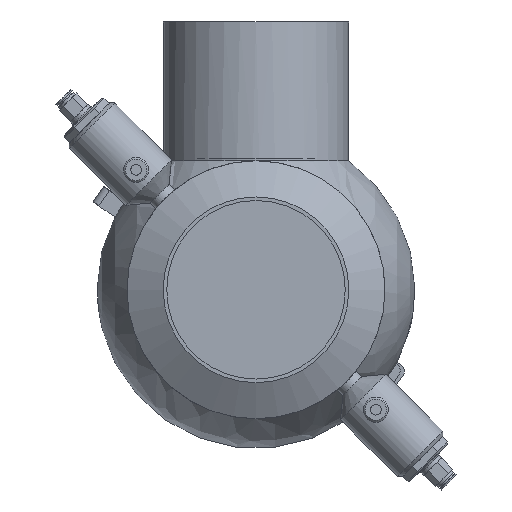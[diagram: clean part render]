
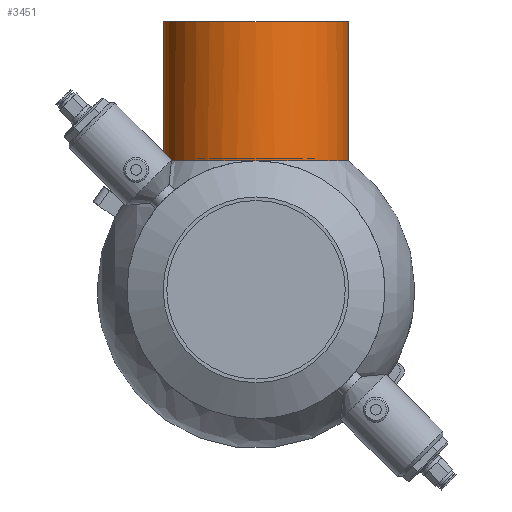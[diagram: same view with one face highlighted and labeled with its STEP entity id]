
A CAD part, front view. The second image highlights one B-rep face of the part: STEP entity #3451.
In plain terms, the highlighted cylindrical face has radius 52 mm (diameter 104 mm), a full revolution.
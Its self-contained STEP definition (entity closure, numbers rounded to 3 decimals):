
#188 = CARTESIAN_POINT ( 'NONE',  ( 72.229, -51.971, 1.75 ) ) ;
#2757 = CARTESIAN_POINT ( 'NONE',  ( 72.243, 51.99, 1.168 ) ) ;
#3451 = ADVANCED_FACE ( 'NONE', ( #17939, #26314 ), #41119, .T. ) ;
#4083 = EDGE_CURVE ( 'NONE', #4780, #60492, #18166, .T. ) ;
#4780 = VERTEX_POINT ( 'NONE', #37259 ) ;
#6904 = DIRECTION ( 'NONE',  ( 0., 0., 1. ) ) ;
#7041 = DIRECTION ( 'NONE',  ( -1., 0., 0. ) ) ;
#7380 = ORIENTED_EDGE ( 'NONE', *, *, #22187, .T. ) ;
#9732 = EDGE_LOOP ( 'NONE', ( #32349, #59508, #32589, #43352 ) ) ;
#9803 = CARTESIAN_POINT ( 'NONE',  ( 72.257, -52.01, -0.005 ) ) ;
#11434 = AXIS2_PLACEMENT_3D ( 'NONE', #36782, #12029, #6904 ) ;
#11670 = AXIS2_PLACEMENT_3D ( 'NONE', #36393, #35756, #20952 ) ;
#12029 = DIRECTION ( 'NONE',  ( 1., 0., 0. ) ) ;
#16638 = AXIS2_PLACEMENT_3D ( 'NONE', #36287, #7041, #18572 ) ;
#17522 = CARTESIAN_POINT ( 'NONE',  ( 72.229, 51.971, -1.75 ) ) ;
#17939 = FACE_OUTER_BOUND ( 'NONE', #9732, .T. ) ;
#18166 = B_SPLINE_CURVE_WITH_KNOTS ( 'NONE', 3,
 ( #188, #53813, #9803, #25228, #54113 ),
 .UNSPECIFIED., .F., .F.,
 ( 4, 1, 4 ),
 ( 0.083, 0.085, 0.086 ),
 .UNSPECIFIED. ) ;
#18281 = DIRECTION ( 'NONE',  ( -1., 0., 0. ) ) ;
#18572 = DIRECTION ( 'NONE',  ( 0., 0., 1. ) ) ;
#18920 = CARTESIAN_POINT ( 'NONE',  ( 150., 0., 0. ) ) ;
#19458 = CIRCLE ( 'NONE', #28746, 52. ) ;
#20952 = DIRECTION ( 'NONE',  ( 0., 0., 1. ) ) ;
#22187 = EDGE_CURVE ( 'NONE', #45172, #45172, #19458, .T. ) ;
#22336 = CARTESIAN_POINT ( 'NONE',  ( 72.229, 51.971, 1.75 ) ) ;
#25228 = CARTESIAN_POINT ( 'NONE',  ( 72.243, -51.99, -1.169 ) ) ;
#26314 = FACE_OUTER_BOUND ( 'NONE', #28085, .T. ) ;
#26865 = CARTESIAN_POINT ( 'NONE',  ( 72.25, 52., -0.587 ) ) ;
#28085 = EDGE_LOOP ( 'NONE', ( #7380 ) ) ;
#28746 = AXIS2_PLACEMENT_3D ( 'NONE', #18920, #18281, #62277 ) ;
#29167 = CARTESIAN_POINT ( 'NONE',  ( 150., 0., 52. ) ) ;
#32349 = ORIENTED_EDGE ( 'NONE', *, *, #53453, .T. ) ;
#32589 = ORIENTED_EDGE ( 'NONE', *, *, #44455, .T. ) ;
#32851 = EDGE_CURVE ( 'NONE', #45986, #50947, #55768, .T. ) ;
#33260 = CIRCLE ( 'NONE', #11670, 52. ) ;
#35756 = DIRECTION ( 'NONE',  ( 1., 0., 0. ) ) ;
#36287 = CARTESIAN_POINT ( 'NONE',  ( 0., 0., 0. ) ) ;
#36393 = CARTESIAN_POINT ( 'NONE',  ( 72.229, 0., 0. ) ) ;
#36782 = CARTESIAN_POINT ( 'NONE',  ( 72.229, 0., 0. ) ) ;
#37259 = CARTESIAN_POINT ( 'NONE',  ( 72.229, -51.971, 1.75 ) ) ;
#40216 = CIRCLE ( 'NONE', #11434, 52. ) ;
#41119 = CYLINDRICAL_SURFACE ( 'NONE', #16638, 52. ) ;
#43352 = ORIENTED_EDGE ( 'NONE', *, *, #32851, .T. ) ;
#44455 = EDGE_CURVE ( 'NONE', #60492, #45986, #40216, .T. ) ;
#45172 = VERTEX_POINT ( 'NONE', #29167 ) ;
#45986 = VERTEX_POINT ( 'NONE', #60441 ) ;
#46460 = CARTESIAN_POINT ( 'NONE',  ( 72.25, 52., 0.584 ) ) ;
#50947 = VERTEX_POINT ( 'NONE', #56990 ) ;
#51244 = CARTESIAN_POINT ( 'NONE',  ( 72.243, 51.99, -1.17 ) ) ;
#53453 = EDGE_CURVE ( 'NONE', #50947, #4780, #33260, .T. ) ;
#53813 = CARTESIAN_POINT ( 'NONE',  ( 72.243, -51.99, 1.164 ) ) ;
#54113 = CARTESIAN_POINT ( 'NONE',  ( 72.229, -51.971, -1.75 ) ) ;
#55768 = B_SPLINE_CURVE_WITH_KNOTS ( 'NONE', 3,
 ( #17522, #51244, #26865, #46460, #2757, #22336 ),
 .UNSPECIFIED., .F., .F.,
 ( 4, 2, 4 ),
 ( 0.252, 0.254, 0.255 ),
 .UNSPECIFIED. ) ;
#56446 = CARTESIAN_POINT ( 'NONE',  ( 72.229, -51.971, -1.75 ) ) ;
#56990 = CARTESIAN_POINT ( 'NONE',  ( 72.229, 51.971, 1.75 ) ) ;
#59508 = ORIENTED_EDGE ( 'NONE', *, *, #4083, .T. ) ;
#60441 = CARTESIAN_POINT ( 'NONE',  ( 72.229, 51.971, -1.75 ) ) ;
#60492 = VERTEX_POINT ( 'NONE', #56446 ) ;
#62277 = DIRECTION ( 'NONE',  ( 0., 0., 1. ) ) ;
